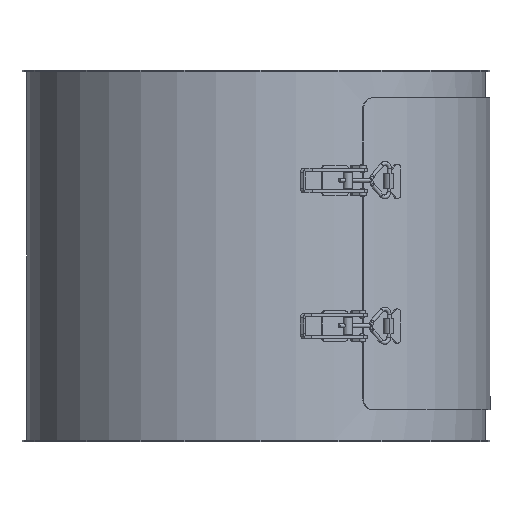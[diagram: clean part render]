
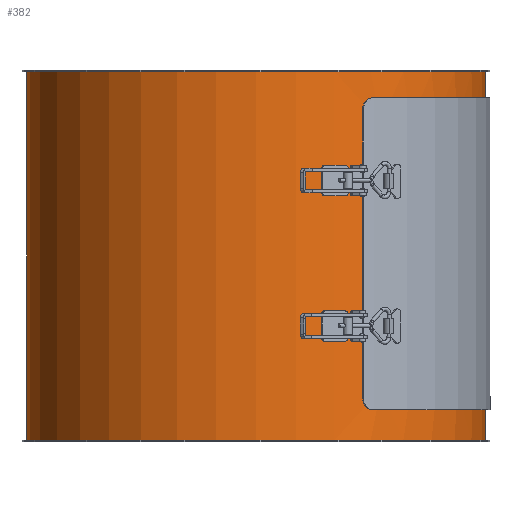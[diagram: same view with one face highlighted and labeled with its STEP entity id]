
A CAD part, left-side view. The second image highlights one B-rep face of the part: STEP entity #382.
In plain terms, the highlighted cylindrical face has radius 301 mm (diameter 602 mm), a full revolution.
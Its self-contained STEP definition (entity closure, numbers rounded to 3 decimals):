
#123=CARTESIAN_POINT('',(-252.5,-163.844,69.));
#124=VERTEX_POINT('',#123);
#131=CARTESIAN_POINT('',(252.5,-163.844,69.));
#132=VERTEX_POINT('',#131);
#133=CARTESIAN_POINT('',(0.0,0.0,69.));
#134=DIRECTION('',(0.0,0.0,-1.0));
#135=DIRECTION('',(-1.0,0.0,0.0));
#136=AXIS2_PLACEMENT_3D('',#133,#134,#135);
#137=CIRCLE('',#136,301.0);
#138=EDGE_CURVE('',#132,#124,#137,.T.);
#163=CARTESIAN_POINT('',(252.5,-163.844,419.));
#164=VERTEX_POINT('',#163);
#165=CARTESIAN_POINT('',(252.5,-163.844,419.));
#166=DIRECTION('',(0.0,0.0,-1.0));
#167=VECTOR('',#166,350.);
#168=LINE('',#165,#167);
#169=EDGE_CURVE('',#164,#132,#168,.T.);
#195=CARTESIAN_POINT('',(-252.5,-163.844,419.));
#196=VERTEX_POINT('',#195);
#197=CARTESIAN_POINT('',(0.0,0.0,419.));
#198=DIRECTION('',(0.0,0.0,1.0));
#199=DIRECTION('',(-1.0,0.0,0.0));
#200=AXIS2_PLACEMENT_3D('',#197,#198,#199);
#201=CIRCLE('',#200,301.0);
#202=EDGE_CURVE('',#196,#164,#201,.T.);
#225=CARTESIAN_POINT('',(-252.5,-163.844,69.));
#226=DIRECTION('',(0.0,0.0,1.0));
#227=VECTOR('',#226,350.0);
#228=LINE('',#225,#227);
#229=EDGE_CURVE('',#124,#196,#228,.T.);
#271=CARTESIAN_POINT('',(-301.0,0.,2.0));
#272=VERTEX_POINT('',#271);
#273=CARTESIAN_POINT('',(0.0,0.0,2.0));
#274=DIRECTION('',(0.0,0.0,1.0));
#275=DIRECTION('',(-1.0,0.0,0.0));
#276=AXIS2_PLACEMENT_3D('',#273,#274,#275);
#277=CIRCLE('',#276,301.0);
#278=EDGE_CURVE('',#272,#272,#277,.T.);
#319=CARTESIAN_POINT('',(301.0,0.,486.0));
#320=VERTEX_POINT('',#319);
#321=CARTESIAN_POINT('',(0.0,0.0,486.0));
#322=DIRECTION('',(0.0,0.0,-1.0));
#323=DIRECTION('',(-1.0,0.0,0.0));
#324=AXIS2_PLACEMENT_3D('',#321,#322,#323);
#325=CIRCLE('',#324,301.0);
#326=EDGE_CURVE('',#320,#320,#325,.T.);
#365=CARTESIAN_POINT('',(0.0,0.0,0.0));
#366=DIRECTION('',(0.0,0.0,1.0));
#367=DIRECTION('',(-1.0,0.0,0.0));
#368=AXIS2_PLACEMENT_3D('',#365,#366,#367);
#369=CYLINDRICAL_SURFACE('',#368,301.0);
#370=ORIENTED_EDGE('',*,*,#278,.T.);
#371=EDGE_LOOP('',(#370));
#372=FACE_OUTER_BOUND('',#371,.T.);
#373=ORIENTED_EDGE('',*,*,#202,.T.);
#374=ORIENTED_EDGE('',*,*,#169,.T.);
#375=ORIENTED_EDGE('',*,*,#138,.T.);
#376=ORIENTED_EDGE('',*,*,#229,.T.);
#377=EDGE_LOOP('',(#373,#374,#375,#376));
#378=FACE_BOUND('',#377,.T.);
#379=ORIENTED_EDGE('',*,*,#326,.T.);
#380=EDGE_LOOP('',(#379));
#381=FACE_BOUND('',#380,.T.);
#382=ADVANCED_FACE('',(#372,#378,#381),#369,.T.);
